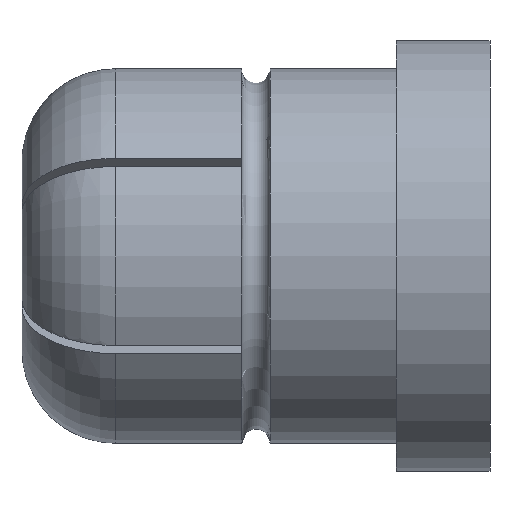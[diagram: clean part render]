
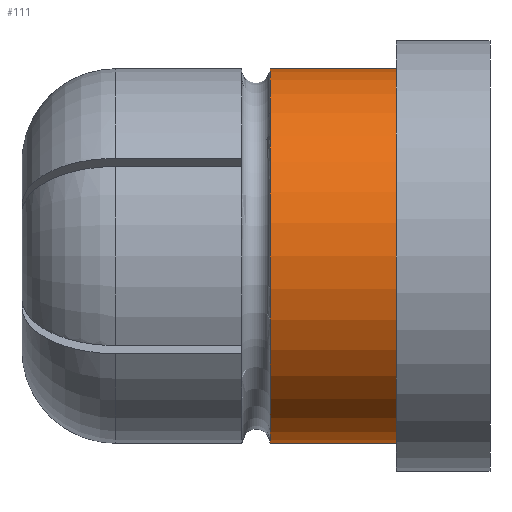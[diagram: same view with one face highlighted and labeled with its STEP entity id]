
A CAD part, front view. The second image highlights one B-rep face of the part: STEP entity #111.
In plain terms, the highlighted cylindrical face has radius 2 mm (diameter 4 mm), a full revolution.
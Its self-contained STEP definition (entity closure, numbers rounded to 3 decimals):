
#111 = ADVANCED_FACE( '', ( #216, #217 ), #218, .T. );
#216 = FACE_OUTER_BOUND( '', #349, .T. );
#217 = FACE_OUTER_BOUND( '', #350, .T. );
#218 = CYLINDRICAL_SURFACE( '', #351, 2. );
#349 = EDGE_LOOP( '', ( #712 ) );
#350 = EDGE_LOOP( '', ( #713 ) );
#351 = AXIS2_PLACEMENT_3D( '', #714, #715, #716 );
#712 = ORIENTED_EDGE( '', *, *, #1045, .F. );
#713 = ORIENTED_EDGE( '', *, *, #1046, .T. );
#714 = CARTESIAN_POINT( '', ( 1., 0., 0. ) );
#715 = DIRECTION( '', ( -1., 0., 0. ) );
#716 = DIRECTION( '', ( 0., 0., -1. ) );
#1045 = EDGE_CURVE( '', #1303, #1303, #1304, .T. );
#1046 = EDGE_CURVE( '', #1305, #1305, #1306, .T. );
#1303 = VERTEX_POINT( '', #1795 );
#1304 = CIRCLE( '', #1796, 2. );
#1305 = VERTEX_POINT( '', #1797 );
#1306 = CIRCLE( '', #1798, 2. );
#1795 = CARTESIAN_POINT( '', ( 0., 0., -2. ) );
#1796 = AXIS2_PLACEMENT_3D( '', #2012, #2013, #2014 );
#1797 = CARTESIAN_POINT( '', ( -1.35, 0., -2. ) );
#1798 = AXIS2_PLACEMENT_3D( '', #2015, #2016, #2017 );
#2012 = CARTESIAN_POINT( '', ( 0., 0., 0. ) );
#2013 = DIRECTION( '', ( 1., 0., 0. ) );
#2014 = DIRECTION( '', ( 0., 0., -1. ) );
#2015 = CARTESIAN_POINT( '', ( -1.35, 0., 0. ) );
#2016 = DIRECTION( '', ( 1., 0., 0. ) );
#2017 = DIRECTION( '', ( 0., 0., -1. ) );
